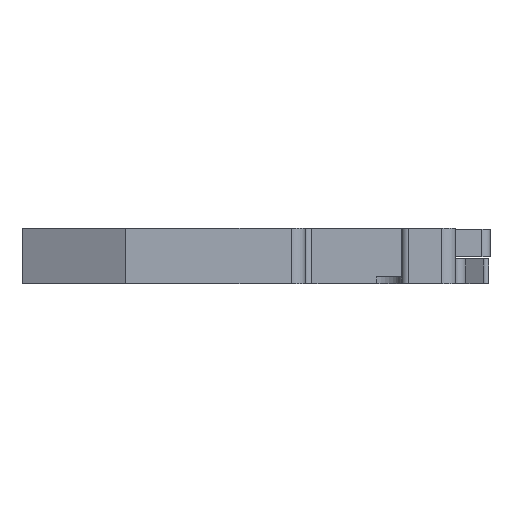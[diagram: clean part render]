
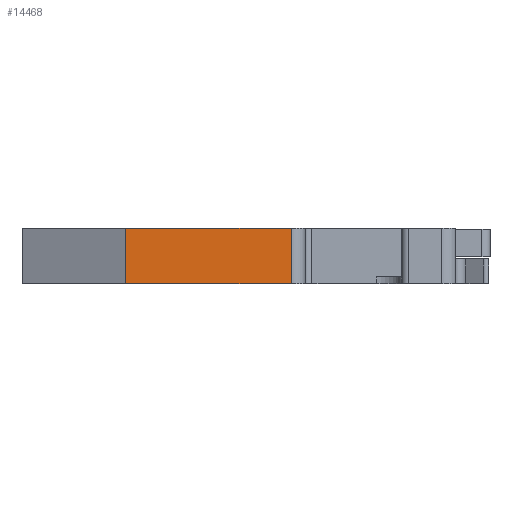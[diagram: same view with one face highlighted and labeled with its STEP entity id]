
A CAD part, left-side view. The second image highlights one B-rep face of the part: STEP entity #14468.
In plain terms, the highlighted planar face has unit normal (-1, 0, 0).
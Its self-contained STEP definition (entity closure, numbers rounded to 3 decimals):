
#888 = CARTESIAN_POINT ( 'NONE',  ( 4.732, 34.908, 36.147 ) ) ;
#1354 = VERTEX_POINT ( 'NONE', #10671 ) ;
#2738 = DIRECTION ( 'NONE',  ( 0., 0., -1. ) ) ;
#3215 = VECTOR ( 'NONE', #26917, 1000. ) ;
#4034 = VECTOR ( 'NONE', #20624, 1000. ) ;
#4482 = EDGE_LOOP ( 'NONE', ( #11590, #5229, #13749, #13330 ) ) ;
#4536 = FACE_OUTER_BOUND ( 'NONE', #4482, .T. ) ;
#5229 = ORIENTED_EDGE ( 'NONE', *, *, #6521, .F. ) ;
#5547 = LINE ( 'NONE', #30724, #4034 ) ;
#6176 = CARTESIAN_POINT ( 'NONE',  ( 4.732, 46.908, 36.147 ) ) ;
#6241 = LINE ( 'NONE', #27741, #7774 ) ;
#6521 = EDGE_CURVE ( 'NONE', #23831, #18122, #6241, .T. ) ;
#7774 = VECTOR ( 'NONE', #2738, 1000. ) ;
#8692 = VECTOR ( 'NONE', #21854, 1000. ) ;
#10671 = CARTESIAN_POINT ( 'NONE',  ( 4.732, 46.908, 32.147 ) ) ;
#11590 = ORIENTED_EDGE ( 'NONE', *, *, #16056, .T. ) ;
#12550 = LINE ( 'NONE', #19443, #8692 ) ;
#13330 = ORIENTED_EDGE ( 'NONE', *, *, #30361, .T. ) ;
#13749 = ORIENTED_EDGE ( 'NONE', *, *, #29699, .F. ) ;
#13948 = CARTESIAN_POINT ( 'NONE',  ( 4.732, 46.908, 36.147 ) ) ;
#14371 = DIRECTION ( 'NONE',  ( 0., 1., 0. ) ) ;
#14408 = CARTESIAN_POINT ( 'NONE',  ( 4.732, 46.908, 36.147 ) ) ;
#14468 = ADVANCED_FACE ( 'NONE', ( #4536 ), #28796, .F. ) ;
#16056 = EDGE_CURVE ( 'NONE', #1354, #18122, #12550, .T. ) ;
#18122 = VERTEX_POINT ( 'NONE', #18328 ) ;
#18328 = CARTESIAN_POINT ( 'NONE',  ( 4.732, 34.908, 32.147 ) ) ;
#19443 = CARTESIAN_POINT ( 'NONE',  ( 4.732, 46.908, 32.147 ) ) ;
#20624 = DIRECTION ( 'NONE',  ( 0., -1., 0. ) ) ;
#21854 = DIRECTION ( 'NONE',  ( 0., -1., 0. ) ) ;
#22208 = LINE ( 'NONE', #14408, #3215 ) ;
#23704 = AXIS2_PLACEMENT_3D ( 'NONE', #13948, #26776, #14371 ) ;
#23831 = VERTEX_POINT ( 'NONE', #888 ) ;
#25239 = VERTEX_POINT ( 'NONE', #6176 ) ;
#26776 = DIRECTION ( 'NONE',  ( 1., 0., 0. ) ) ;
#26917 = DIRECTION ( 'NONE',  ( 0., 0., -1. ) ) ;
#27741 = CARTESIAN_POINT ( 'NONE',  ( 4.732, 34.908, 36.147 ) ) ;
#28796 = PLANE ( 'NONE',  #23704 ) ;
#29699 = EDGE_CURVE ( 'NONE', #25239, #23831, #5547, .T. ) ;
#30361 = EDGE_CURVE ( 'NONE', #25239, #1354, #22208, .T. ) ;
#30724 = CARTESIAN_POINT ( 'NONE',  ( 4.732, 46.908, 36.147 ) ) ;
